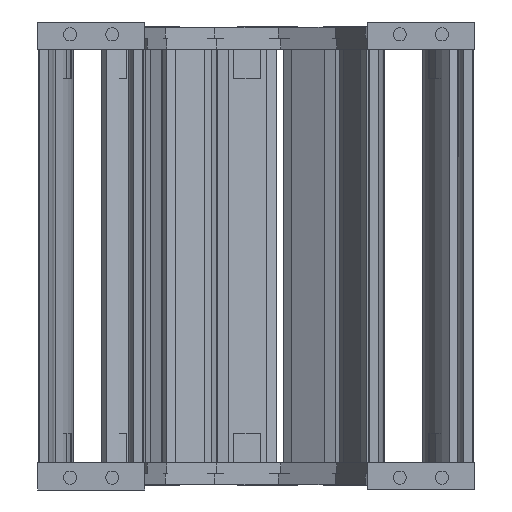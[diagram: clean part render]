
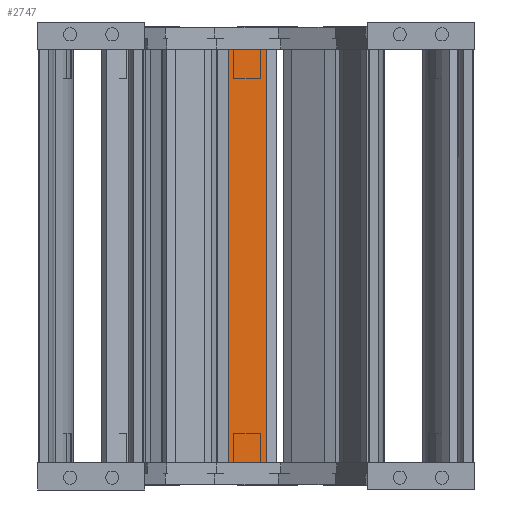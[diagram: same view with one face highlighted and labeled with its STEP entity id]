
A CAD part, left-side view. The second image highlights one B-rep face of the part: STEP entity #2747.
In plain terms, the highlighted planar face has unit normal (-0.996, -0.093, 0) as drawn and (0, -1, 0) by its records, which use the part's own axes.
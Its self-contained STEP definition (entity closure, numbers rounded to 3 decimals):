
#2634=DIRECTION('',(0.,0.,-1.));
#2635=VECTOR('',#2634,250.7);
#2636=CARTESIAN_POINT('',(-11.5,-61.,37.5));
#2637=LINE('',#2636,#2635);
#2651=DIRECTION('',(1.,0.,0.));
#2652=VECTOR('',#2651,23.);
#2653=CARTESIAN_POINT('',(-11.5,-61.,37.5));
#2654=LINE('',#2653,#2652);
#2684=DIRECTION('',(-1.,0.,0.));
#2685=VECTOR('',#2684,23.);
#2686=CARTESIAN_POINT('',(11.5,-61.,-213.2));
#2687=LINE('',#2686,#2685);
#2700=DIRECTION('',(0.,0.,-1.));
#2701=VECTOR('',#2700,250.7);
#2702=CARTESIAN_POINT('',(11.5,-61.,37.5));
#2703=LINE('',#2702,#2701);
#2714=CARTESIAN_POINT('',(11.5,-61.,-213.2));
#2715=VERTEX_POINT('',#2714);
#2716=CARTESIAN_POINT('',(-11.5,-61.,-213.2));
#2717=VERTEX_POINT('',#2716);
#2726=CARTESIAN_POINT('',(11.5,-61.,37.5));
#2727=VERTEX_POINT('',#2726);
#2730=CARTESIAN_POINT('',(-11.5,-61.,37.5));
#2731=VERTEX_POINT('',#2730);
#2732=CARTESIAN_POINT('',(15.5,-61.,-213.2));
#2733=DIRECTION('',(0.,1.,0.));
#2734=DIRECTION('',(-1.,0.,0.));
#2735=AXIS2_PLACEMENT_3D('',#2732,#2733,#2734);
#2736=PLANE('',#2735);
#2738=ORIENTED_EDGE('',*,*,#2737,.F.);
#2740=ORIENTED_EDGE('',*,*,#2739,.T.);
#2742=ORIENTED_EDGE('',*,*,#2741,.T.);
#2744=ORIENTED_EDGE('',*,*,#2743,.T.);
#2745=EDGE_LOOP('',(#2738,#2740,#2742,#2744));
#2746=FACE_OUTER_BOUND('',#2745,.F.);
#2747=ADVANCED_FACE('',(#2746),#2736,.F.);
#2737=EDGE_CURVE('',#2731,#2717,#2637,.T.);
#2739=EDGE_CURVE('',#2731,#2727,#2654,.T.);
#2741=EDGE_CURVE('',#2727,#2715,#2703,.T.);
#2743=EDGE_CURVE('',#2715,#2717,#2687,.T.);
